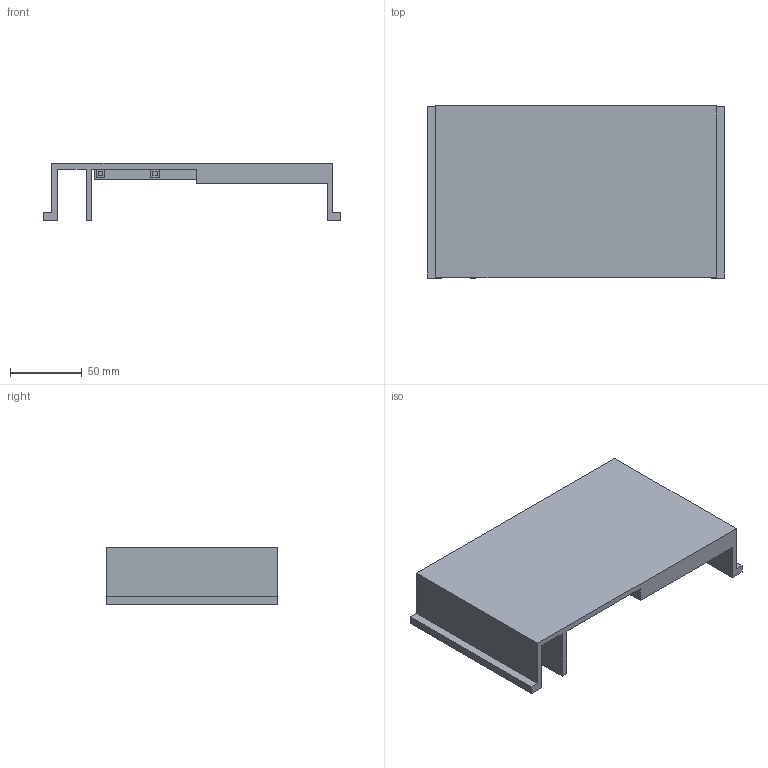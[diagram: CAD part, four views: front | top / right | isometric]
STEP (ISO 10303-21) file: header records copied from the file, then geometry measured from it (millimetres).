
FILE_DESCRIPTION(/* description */ (''),/* implementation_level */ '2;1');
FILE_NAME(/* name */ '/Users/davidflorian/Library/Mobile Documents/com~apple~CloudDocs/Vanderbilt/Papers/OTTO/Supplemental Material/3D-Printable-Components-STEP-Files/Electronics-Tray-4.step',/* time_stamp */ '2020-06-30T23:21:15-05:00',/* author */ (''),/* organization */ (''),/* preprocessor_version */ 'ST-DEVELOPER v18.1',/* originating_system */ 'Autodesk Translation Framework v9.3.0.1241',/* authorisation */ '');
FILE_SCHEMA (('AUTOMOTIVE_DESIGN { 1 0 10303 214 3 1 1 }'));
Length unit declared in the file: millimetre
Products named in the file (1): Electronics-Tray-4
Bounding box: 207.6 x 120 x 40 mm (x, y, z)
Volume: 185487.3 mm3; surface area: 89759.9 mm2
Topology: 1 solids, 1 shells, 75 faces, 207 edges, 138 vertices
Faces by surface type: plane 74, cylinder 1
Entity records: 2396 total; most frequent: CARTESIAN_POINT 421, ORIENTED_EDGE 414, DIRECTION 361, EDGE_CURVE 207, LINE 205, VECTOR 205, VERTEX_POINT 138, EDGE_LOOP 89
